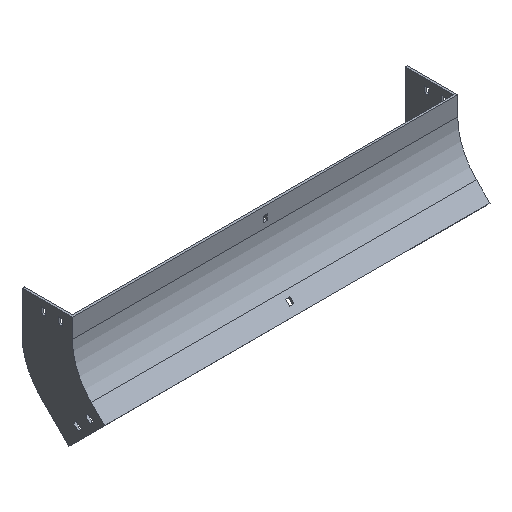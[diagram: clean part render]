
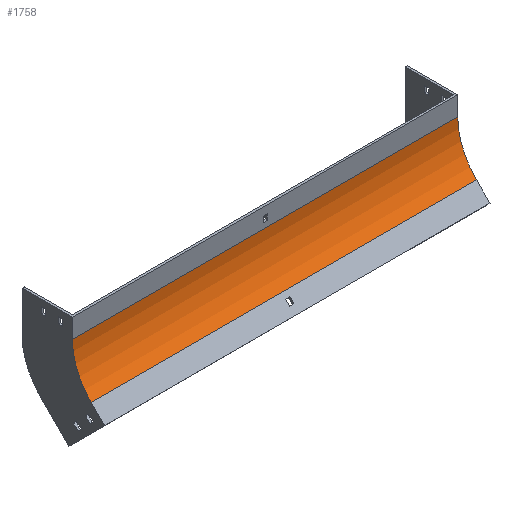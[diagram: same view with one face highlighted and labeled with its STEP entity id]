
A CAD part, isometric view. The second image highlights one B-rep face of the part: STEP entity #1758.
In plain terms, the highlighted cylindrical face has radius 100 mm (diameter 200 mm), a partial arc.
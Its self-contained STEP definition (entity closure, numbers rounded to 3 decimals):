
#18 = ORIENTED_EDGE ( 'NONE', *, *, #513, .F. ) ;
#58 = AXIS2_PLACEMENT_3D ( 'NONE', #390, #1772, #98 ) ;
#66 = LINE ( 'NONE', #219, #732 ) ;
#69 = DIRECTION ( 'NONE',  ( -1., 0., 0. ) ) ;
#75 = DIRECTION ( 'NONE',  ( -1., 0., 0. ) ) ;
#98 = DIRECTION ( 'NONE',  ( 0., 0., 1. ) ) ;
#132 = CIRCLE ( 'NONE', #536, 100. ) ;
#175 = VERTEX_POINT ( 'NONE', #179 ) ;
#179 = CARTESIAN_POINT ( 'NONE',  ( -302., 0., -30. ) ) ;
#197 = DIRECTION ( 'NONE',  ( -1., 0., 0. ) ) ;
#216 = EDGE_CURVE ( 'NONE', #1768, #175, #66, .T. ) ;
#219 = CARTESIAN_POINT ( 'NONE',  ( 302., 0., -30. ) ) ;
#278 = AXIS2_PLACEMENT_3D ( 'NONE', #1413, #69, #479 ) ;
#390 = CARTESIAN_POINT ( 'NONE',  ( 302., -100., -30. ) ) ;
#435 = CARTESIAN_POINT ( 'NONE',  ( -302., -29.289, -100.711 ) ) ;
#479 = DIRECTION ( 'NONE',  ( 0., 0., 1. ) ) ;
#513 = EDGE_CURVE ( 'NONE', #950, #803, #655, .T. ) ;
#536 = AXIS2_PLACEMENT_3D ( 'NONE', #1120, #197, #1400 ) ;
#632 = CARTESIAN_POINT ( 'NONE',  ( 302., -29.289, -100.711 ) ) ;
#655 = LINE ( 'NONE', #632, #674 ) ;
#674 = VECTOR ( 'NONE', #948, 1000. ) ;
#722 = ORIENTED_EDGE ( 'NONE', *, *, #1236, .T. ) ;
#732 = VECTOR ( 'NONE', #75, 1000. ) ;
#803 = VERTEX_POINT ( 'NONE', #435 ) ;
#930 = EDGE_CURVE ( 'NONE', #1768, #950, #1829, .T. ) ;
#948 = DIRECTION ( 'NONE',  ( -1., 0., 0. ) ) ;
#950 = VERTEX_POINT ( 'NONE', #1100 ) ;
#1005 = CARTESIAN_POINT ( 'NONE',  ( 302., 0., -30. ) ) ;
#1031 = ORIENTED_EDGE ( 'NONE', *, *, #216, .T. ) ;
#1078 = ORIENTED_EDGE ( 'NONE', *, *, #930, .F. ) ;
#1100 = CARTESIAN_POINT ( 'NONE',  ( 302., -29.289, -100.711 ) ) ;
#1120 = CARTESIAN_POINT ( 'NONE',  ( -302., -100., -30. ) ) ;
#1236 = EDGE_CURVE ( 'NONE', #175, #803, #132, .T. ) ;
#1324 = EDGE_LOOP ( 'NONE', ( #722, #18, #1078, #1031 ) ) ;
#1400 = DIRECTION ( 'NONE',  ( 0., 0., 1. ) ) ;
#1413 = CARTESIAN_POINT ( 'NONE',  ( 302., -100., -30. ) ) ;
#1464 = CYLINDRICAL_SURFACE ( 'NONE', #58, 100. ) ;
#1758 = ADVANCED_FACE ( 'NONE', ( #1759 ), #1464, .F. ) ;
#1759 = FACE_OUTER_BOUND ( 'NONE', #1324, .T. ) ;
#1768 = VERTEX_POINT ( 'NONE', #1005 ) ;
#1772 = DIRECTION ( 'NONE',  ( -1., 0., 0. ) ) ;
#1829 = CIRCLE ( 'NONE', #278, 100. ) ;
